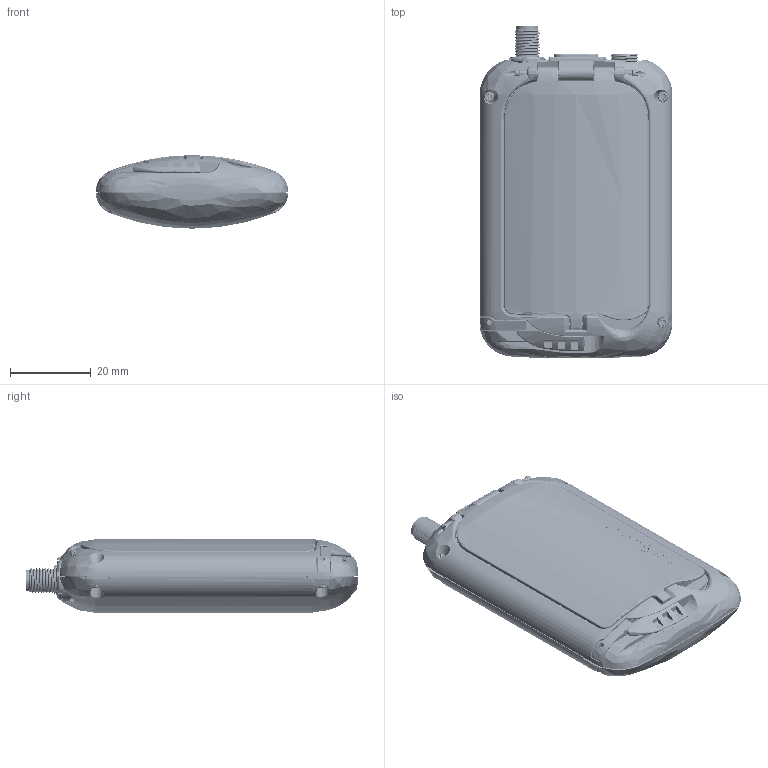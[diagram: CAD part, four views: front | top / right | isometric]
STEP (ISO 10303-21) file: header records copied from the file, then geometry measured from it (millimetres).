
FILE_DESCRIPTION(/* description */ (''),/* implementation_level */ '2;1');
FILE_NAME(/* name */ 'A20-Mini_Shareable_3D.stp',/* time_stamp */ '2024-12-11T11:30:38-06:00',('The Cool People at Sound Devices'),(''),/* preprocessor_version */ 'ST-DEVELOPER v20',/* originating_system */ 'Autodesk Inventor 2024','Proprietary to Sound Devices LLC');
FILE_SCHEMA (('AUTOMOTIVE_DESIGN { 1 0 10303 214 3 1 1 }'));
Length unit declared in the file: millimetre
Products named in the file (44): Solid 1; Solid 2; Solid 3; Solid 4; Solid 5; Solid 6; Solid 7; Solid 8; Solid 9; Solid 10; Solid 11; Solid 12; Solid 13; Solid 14; Solid 15; Solid 16; Solid 17; Solid 18; Solid 19; Solid 20; Solid 21; Solid 22; Solid 23; Solid 24; Solid 25; Solid 26; Solid 27; Solid 28; Solid 29; Solid 30; Solid 31; Solid 32; Solid 33; Solid 34; Solid 35; Solid 36; Solid 37; Solid 38; Solid 39; Solid 40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
Assembly tree (54 placements, depth 4):
  Solid 1
    Solid 2
    Solid 3
      Solid 4
    Solid 5
    Solid 6
    Solid 7
      Solid 8
        Solid 9
        Solid 10
        Solid 11  x2
        Solid 12
      Solid 13
        Solid 14  x3
        Solid 15
      Solid 16
      Solid 17
      Solid 18
    Solid 19
      Solid 20  x3
      Solid 21  x3
      Solid 22
        Solid 23
      Solid 24  x3
      Solid 25
      Solid 26
      Solid 27
        Solid 28
    Solid 29
      Solid 30
      Solid 31
      Solid 32
      Solid 33
    Solid 34
    Solid 35
    Solid 36
    Solid 37
    Solid 38
    Solid 39  x3
    Solid 40
    Solid 41
    Solid 42
    Solid 43
    Solid 44
Bounding box: 47.8 x 82.31 x 18.2 mm (x, y, z)
Volume: 16485.9 mm3; surface area: 36103.4 mm2
Topology: 67 solids, 173 shells, 10822 faces, 27158 edges, 16935 vertices
Faces by surface type: plane 4744, bspline 3406, cylinder 2229, cone 311, torus 96, sphere 36
Full cylindrical faces by diameter (mm): 0.242 x1, 0.4 x14, 0.435 x1, 0.5 x6, 0.55 x4, 0.6 x2, 0.65 x4, 0.672 x1, 0.7 x7, 0.729 x1, 0.95 x1, 1 x1, 1.01 x18, 1.1 x2, 1.112 x3, 1.145 x36, 1.17 x13, 1.181 x1, 1.4 x18, 1.5 x1, 1.524 x6, 1.6 x18, 1.7 x5, 1.8 x6, 1.803 x2, 2.1 x4, 2.388 x3, 2.52 x1, 3 x5, 3.132 x1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
Entity records: 332351 total; most frequent: CARTESIAN_POINT 136657, ORIENTED_EDGE 42972, DIRECTION 33715, EDGE_CURVE 21486, VERTEX_POINT 13747, LINE 12753, VECTOR 12753, AXIS2_PLACEMENT_3D 10481
